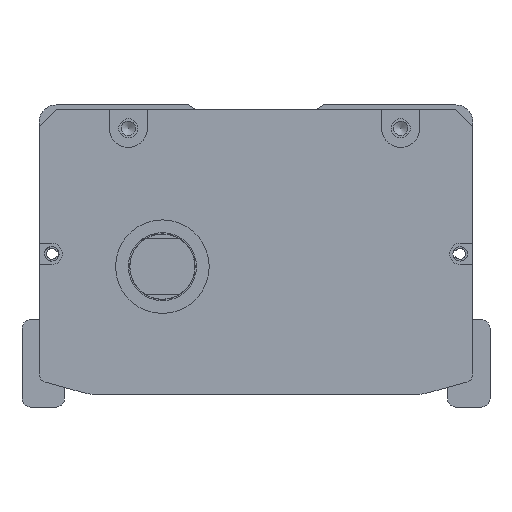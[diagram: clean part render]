
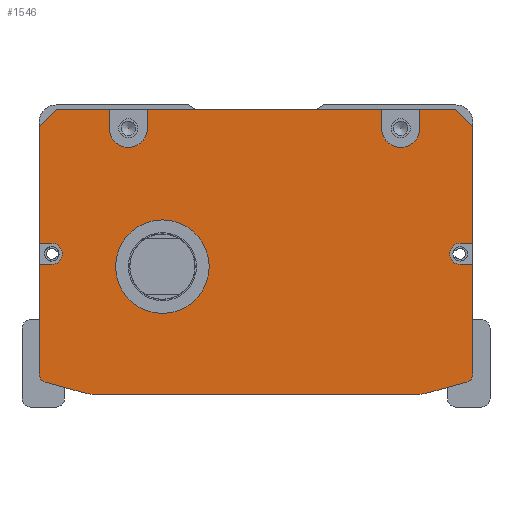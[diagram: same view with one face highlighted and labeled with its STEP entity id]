
A CAD part, front view. The second image highlights one B-rep face of the part: STEP entity #1546.
In plain terms, the highlighted planar face has unit normal (0, -1, 0).
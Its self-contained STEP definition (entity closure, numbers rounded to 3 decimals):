
#942=FACE_BOUND('',#2956,.T.);
#943=FACE_BOUND('',#2957,.T.);
#1546=ADVANCED_FACE('',(#942,#943),#2127,.F.);
#2127=PLANE('',#11599);
#2956=EDGE_LOOP('',(#5245,#5246,#5247,#5248,#5249,#5250,#5251,#5252,#5253,
#5254,#5255,#5256,#5257,#5258,#5259,#5260,#5261,#5262,#5263,#5264,#5265,
#5266,#5267,#5268,#5269,#5270,#5271,#5272));
#2957=EDGE_LOOP('',(#5273));
#3863=CIRCLE('',#11590,4.5);
#3864=CIRCLE('',#11591,4.5);
#3865=CIRCLE('',#11592,2.5);
#3866=CIRCLE('',#11593,2.);
#3867=CIRCLE('',#11594,10.);
#3868=CIRCLE('',#11595,10.);
#3869=CIRCLE('',#11596,2.);
#3870=CIRCLE('',#11597,2.5);
#3871=CIRCLE('',#11598,11.);
#5245=ORIENTED_EDGE('',*,*,#8494,.T.);
#5246=ORIENTED_EDGE('',*,*,#8922,.T.);
#5247=ORIENTED_EDGE('',*,*,#8923,.T.);
#5248=ORIENTED_EDGE('',*,*,#8924,.F.);
#5249=ORIENTED_EDGE('',*,*,#8925,.T.);
#5250=ORIENTED_EDGE('',*,*,#8926,.F.);
#5251=ORIENTED_EDGE('',*,*,#8927,.T.);
#5252=ORIENTED_EDGE('',*,*,#8928,.F.);
#5253=ORIENTED_EDGE('',*,*,#8929,.T.);
#5254=ORIENTED_EDGE('',*,*,#8930,.F.);
#5255=ORIENTED_EDGE('',*,*,#8931,.T.);
#5256=ORIENTED_EDGE('',*,*,#8932,.T.);
#5257=ORIENTED_EDGE('',*,*,#8526,.T.);
#5258=ORIENTED_EDGE('',*,*,#8933,.T.);
#5259=ORIENTED_EDGE('',*,*,#8934,.T.);
#5260=ORIENTED_EDGE('',*,*,#8935,.T.);
#5261=ORIENTED_EDGE('',*,*,#8522,.T.);
#5262=ORIENTED_EDGE('',*,*,#8936,.T.);
#5263=ORIENTED_EDGE('',*,*,#8937,.T.);
#5264=ORIENTED_EDGE('',*,*,#8938,.T.);
#5265=ORIENTED_EDGE('',*,*,#8939,.T.);
#5266=ORIENTED_EDGE('',*,*,#8940,.T.);
#5267=ORIENTED_EDGE('',*,*,#8941,.T.);
#5268=ORIENTED_EDGE('',*,*,#8942,.T.);
#5269=ORIENTED_EDGE('',*,*,#8498,.T.);
#5270=ORIENTED_EDGE('',*,*,#8943,.T.);
#5271=ORIENTED_EDGE('',*,*,#8944,.T.);
#5272=ORIENTED_EDGE('',*,*,#8945,.T.);
#5273=ORIENTED_EDGE('',*,*,#8946,.T.);
#7398=VERTEX_POINT('',#15914);
#7399=VERTEX_POINT('',#15916);
#7402=VERTEX_POINT('',#15922);
#7403=VERTEX_POINT('',#15924);
#7424=VERTEX_POINT('',#15969);
#7425=VERTEX_POINT('',#15971);
#7428=VERTEX_POINT('',#15977);
#7429=VERTEX_POINT('',#15979);
#7700=VERTEX_POINT('',#16794);
#7701=VERTEX_POINT('',#16796);
#7702=VERTEX_POINT('',#16798);
#7703=VERTEX_POINT('',#16800);
#7704=VERTEX_POINT('',#16802);
#7705=VERTEX_POINT('',#16804);
#7706=VERTEX_POINT('',#16806);
#7707=VERTEX_POINT('',#16808);
#7708=VERTEX_POINT('',#16810);
#7709=VERTEX_POINT('',#16812);
#7710=VERTEX_POINT('',#16815);
#7711=VERTEX_POINT('',#16817);
#7712=VERTEX_POINT('',#16820);
#7713=VERTEX_POINT('',#16822);
#7714=VERTEX_POINT('',#16824);
#7715=VERTEX_POINT('',#16826);
#7716=VERTEX_POINT('',#16828);
#7717=VERTEX_POINT('',#16830);
#7718=VERTEX_POINT('',#16833);
#7719=VERTEX_POINT('',#16835);
#7720=VERTEX_POINT('',#16838);
#8494=EDGE_CURVE('',#7399,#7398,#9933,.T.);
#8498=EDGE_CURVE('',#7403,#7402,#9937,.T.);
#8522=EDGE_CURVE('',#7425,#7424,#9961,.T.);
#8526=EDGE_CURVE('',#7429,#7428,#9965,.T.);
#8922=EDGE_CURVE('',#7398,#7700,#10206,.T.);
#8923=EDGE_CURVE('',#7700,#7701,#10207,.T.);
#8924=EDGE_CURVE('',#7702,#7701,#10208,.T.);
#8925=EDGE_CURVE('',#7702,#7703,#3863,.T.);
#8926=EDGE_CURVE('',#7704,#7703,#10209,.T.);
#8927=EDGE_CURVE('',#7704,#7705,#10210,.T.);
#8928=EDGE_CURVE('',#7706,#7705,#10211,.T.);
#8929=EDGE_CURVE('',#7706,#7707,#3864,.T.);
#8930=EDGE_CURVE('',#7708,#7707,#10212,.T.);
#8931=EDGE_CURVE('',#7708,#7709,#10213,.T.);
#8932=EDGE_CURVE('',#7709,#7429,#10214,.T.);
#8933=EDGE_CURVE('',#7428,#7710,#10215,.T.);
#8934=EDGE_CURVE('',#7710,#7711,#3865,.T.);
#8935=EDGE_CURVE('',#7711,#7425,#10216,.T.);
#8936=EDGE_CURVE('',#7424,#7712,#3866,.T.);
#8937=EDGE_CURVE('',#7712,#7713,#10217,.T.);
#8938=EDGE_CURVE('',#7713,#7714,#3867,.T.);
#8939=EDGE_CURVE('',#7714,#7715,#10218,.T.);
#8940=EDGE_CURVE('',#7715,#7716,#3868,.T.);
#8941=EDGE_CURVE('',#7716,#7717,#10219,.T.);
#8942=EDGE_CURVE('',#7717,#7403,#3869,.T.);
#8943=EDGE_CURVE('',#7402,#7718,#10220,.T.);
#8944=EDGE_CURVE('',#7718,#7719,#3870,.T.);
#8945=EDGE_CURVE('',#7719,#7399,#10221,.T.);
#8946=EDGE_CURVE('',#7720,#7720,#3871,.T.);
#9933=LINE('',#15915,#10590);
#9937=LINE('',#15923,#10594);
#9961=LINE('',#15970,#10618);
#9965=LINE('',#15978,#10622);
#10206=LINE('',#16793,#10863);
#10207=LINE('',#16795,#10864);
#10208=LINE('',#16797,#10865);
#10209=LINE('',#16801,#10866);
#10210=LINE('',#16803,#10867);
#10211=LINE('',#16805,#10868);
#10212=LINE('',#16809,#10869);
#10213=LINE('',#16811,#10870);
#10214=LINE('',#16813,#10871);
#10215=LINE('',#16814,#10872);
#10216=LINE('',#16818,#10873);
#10217=LINE('',#16821,#10874);
#10218=LINE('',#16825,#10875);
#10219=LINE('',#16829,#10876);
#10220=LINE('',#16832,#10877);
#10221=LINE('',#16836,#10878);
#10590=VECTOR('',#12706,1.);
#10594=VECTOR('',#12710,1.);
#10618=VECTOR('',#12736,1.);
#10622=VECTOR('',#12740,1.);
#10863=VECTOR('',#13587,1.);
#10864=VECTOR('',#13588,1.);
#10865=VECTOR('',#13589,1.);
#10866=VECTOR('',#13592,1.);
#10867=VECTOR('',#13593,1.);
#10868=VECTOR('',#13594,1.);
#10869=VECTOR('',#13597,1.);
#10870=VECTOR('',#13598,1.);
#10871=VECTOR('',#13599,1.);
#10872=VECTOR('',#13600,1.);
#10873=VECTOR('',#13603,1.);
#10874=VECTOR('',#13606,1.);
#10875=VECTOR('',#13609,1.);
#10876=VECTOR('',#13612,1.);
#10877=VECTOR('',#13615,1.);
#10878=VECTOR('',#13618,1.);
#11590=AXIS2_PLACEMENT_3D('',#16799,#13590,#13591);
#11591=AXIS2_PLACEMENT_3D('',#16807,#13595,#13596);
#11592=AXIS2_PLACEMENT_3D('',#16816,#13601,#13602);
#11593=AXIS2_PLACEMENT_3D('',#16819,#13604,#13605);
#11594=AXIS2_PLACEMENT_3D('',#16823,#13607,#13608);
#11595=AXIS2_PLACEMENT_3D('',#16827,#13610,#13611);
#11596=AXIS2_PLACEMENT_3D('',#16831,#13613,#13614);
#11597=AXIS2_PLACEMENT_3D('',#16834,#13616,#13617);
#11598=AXIS2_PLACEMENT_3D('',#16837,#13619,#13620);
#11599=AXIS2_PLACEMENT_3D('',#16839,#13621,#13622);
#12706=DIRECTION('',(0.,0.,1.));
#12710=DIRECTION('',(0.,0.,1.));
#12736=DIRECTION('',(0.,0.,-1.));
#12740=DIRECTION('',(0.,0.,-1.));
#13587=DIRECTION('',(-0.707,0.,0.707));
#13588=DIRECTION('',(-1.,0.,0.));
#13589=DIRECTION('',(0.,0.,1.));
#13590=DIRECTION('',(0.,1.,0.));
#13591=DIRECTION('',(0.,0.,1.));
#13592=DIRECTION('',(0.,0.,-1.));
#13593=DIRECTION('',(-1.,0.,0.));
#13594=DIRECTION('',(0.,0.,1.));
#13595=DIRECTION('',(0.,1.,0.));
#13596=DIRECTION('',(0.,0.,1.));
#13597=DIRECTION('',(0.,0.,-1.));
#13598=DIRECTION('',(-1.,0.,0.));
#13599=DIRECTION('',(-0.707,0.,-0.707));
#13600=DIRECTION('',(1.,0.,0.));
#13601=DIRECTION('',(0.,1.,0.));
#13602=DIRECTION('',(0.,0.,1.));
#13603=DIRECTION('',(-1.,0.,0.));
#13604=DIRECTION('',(0.,-1.,0.));
#13605=DIRECTION('',(0.,0.,1.));
#13606=DIRECTION('',(0.963,0.,-0.269));
#13607=DIRECTION('',(0.,-1.,0.));
#13608=DIRECTION('',(0.,0.,1.));
#13609=DIRECTION('',(1.,0.,0.));
#13610=DIRECTION('',(0.,-1.,0.));
#13611=DIRECTION('',(0.,0.,-1.));
#13612=DIRECTION('',(0.963,0.,0.269));
#13613=DIRECTION('',(0.,-1.,0.));
#13614=DIRECTION('',(0.,0.,-1.));
#13615=DIRECTION('',(-1.,0.,0.));
#13616=DIRECTION('',(0.,1.,0.));
#13617=DIRECTION('',(0.,0.,1.));
#13618=DIRECTION('',(1.,0.,0.));
#13619=DIRECTION('',(0.,1.,0.));
#13620=DIRECTION('',(0.,0.,1.));
#13621=DIRECTION('',(0.,1.,0.));
#13622=DIRECTION('',(1.,0.,0.));
#15914=CARTESIAN_POINT('',(47.808,-57.5,-5.));
#15915=CARTESIAN_POINT('',(47.808,-57.5,-1.));
#15916=CARTESIAN_POINT('',(47.808,-57.5,-32.5));
#15922=CARTESIAN_POINT('',(47.808,-57.5,-37.5));
#15923=CARTESIAN_POINT('',(47.808,-57.5,-1.));
#15924=CARTESIAN_POINT('',(47.808,-57.5,-63.212));
#15969=CARTESIAN_POINT('',(-54.192,-57.5,-63.212));
#15970=CARTESIAN_POINT('',(-54.192,-57.5,-62.));
#15971=CARTESIAN_POINT('',(-54.192,-57.5,-37.5));
#15977=CARTESIAN_POINT('',(-54.192,-57.5,-32.5));
#15978=CARTESIAN_POINT('',(-54.192,-57.5,-62.));
#15979=CARTESIAN_POINT('',(-54.192,-57.5,-5.));
#16793=CARTESIAN_POINT('',(43.808,-57.5,-1.));
#16794=CARTESIAN_POINT('',(43.808,-57.5,-1.));
#16795=CARTESIAN_POINT('',(-3.192,-57.5,-1.));
#16796=CARTESIAN_POINT('',(35.308,-57.5,-1.));
#16797=CARTESIAN_POINT('',(35.308,-57.5,-1.));
#16798=CARTESIAN_POINT('',(35.308,-57.5,-5.5));
#16799=CARTESIAN_POINT('',(30.808,-57.5,-5.5));
#16800=CARTESIAN_POINT('',(26.308,-57.5,-5.5));
#16801=CARTESIAN_POINT('',(26.308,-57.5,-1.));
#16802=CARTESIAN_POINT('',(26.308,-57.5,-1.));
#16803=CARTESIAN_POINT('',(-54.192,-57.5,-1.));
#16804=CARTESIAN_POINT('',(-28.692,-57.5,-1.));
#16805=CARTESIAN_POINT('',(-28.692,-57.5,-3.5));
#16806=CARTESIAN_POINT('',(-28.692,-57.5,-5.5));
#16807=CARTESIAN_POINT('',(-33.192,-57.5,-5.5));
#16808=CARTESIAN_POINT('',(-37.692,-57.5,-5.5));
#16809=CARTESIAN_POINT('',(-37.692,-57.5,-1.));
#16810=CARTESIAN_POINT('',(-37.692,-57.5,-1.));
#16811=CARTESIAN_POINT('',(-54.192,-57.5,-1.));
#16812=CARTESIAN_POINT('',(-50.192,-57.5,-1.));
#16813=CARTESIAN_POINT('',(-54.192,-57.5,-5.));
#16814=CARTESIAN_POINT('',(-3.192,-57.5,-32.5));
#16815=CARTESIAN_POINT('',(-51.192,-57.5,-32.5));
#16816=CARTESIAN_POINT('',(-51.192,-57.5,-35.));
#16817=CARTESIAN_POINT('',(-51.192,-57.5,-37.5));
#16818=CARTESIAN_POINT('',(-3.192,-57.5,-37.5));
#16819=CARTESIAN_POINT('',(-52.192,-57.5,-63.212));
#16820=CARTESIAN_POINT('',(-52.731,-57.5,-65.138));
#16821=CARTESIAN_POINT('',(-55.807,-57.5,-64.279));
#16822=CARTESIAN_POINT('',(-43.809,-57.5,-67.631));
#16823=CARTESIAN_POINT('',(-41.118,-57.5,-58.));
#16824=CARTESIAN_POINT('',(-41.118,-57.5,-68.));
#16825=CARTESIAN_POINT('',(-54.692,-57.5,-68.));
#16826=CARTESIAN_POINT('',(34.733,-57.5,-68.));
#16827=CARTESIAN_POINT('',(34.733,-57.5,-58.));
#16828=CARTESIAN_POINT('',(37.424,-57.5,-67.631));
#16829=CARTESIAN_POINT('',(49.422,-57.5,-64.279));
#16830=CARTESIAN_POINT('',(46.346,-57.5,-65.138));
#16831=CARTESIAN_POINT('',(45.808,-57.5,-63.212));
#16832=CARTESIAN_POINT('',(-3.192,-57.5,-37.5));
#16833=CARTESIAN_POINT('',(44.808,-57.5,-37.5));
#16834=CARTESIAN_POINT('',(44.808,-57.5,-35.));
#16835=CARTESIAN_POINT('',(44.808,-57.5,-32.5));
#16836=CARTESIAN_POINT('',(-3.192,-57.5,-32.5));
#16837=CARTESIAN_POINT('',(-25.192,-57.5,-38.));
#16838=CARTESIAN_POINT('',(-25.192,-57.5,-27.));
#16839=CARTESIAN_POINT('',(-3.192,-57.5,-1.));
